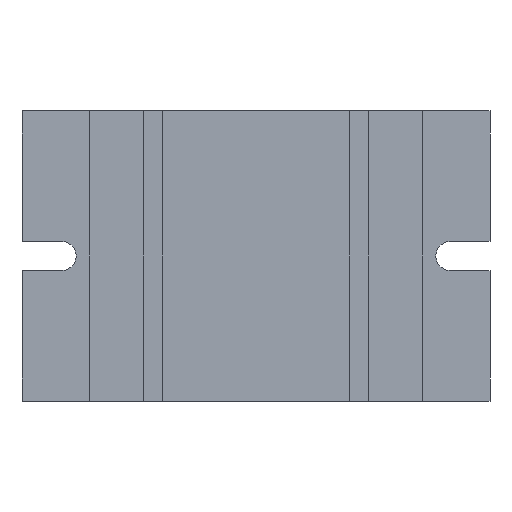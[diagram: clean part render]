
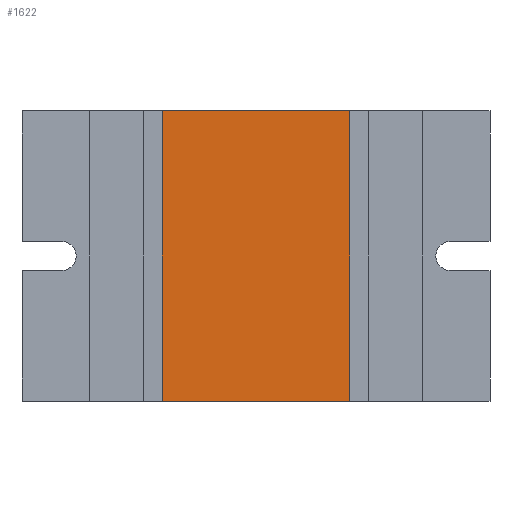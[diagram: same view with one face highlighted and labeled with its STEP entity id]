
A CAD part, front view. The second image highlights one B-rep face of the part: STEP entity #1622.
In plain terms, the highlighted planar face has unit normal (0, -1, 0).
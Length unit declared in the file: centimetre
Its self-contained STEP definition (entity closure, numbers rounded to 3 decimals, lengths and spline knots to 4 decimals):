
#445=VERTEX_POINT('',#7268);
#446=VERTEX_POINT('',#7270);
#447=VERTEX_POINT('',#7274);
#448=VERTEX_POINT('',#7276);
#682=EDGE_CURVE('',#446,#445,#2418,.T.);
#684=EDGE_CURVE('',#445,#447,#2420,.T.);
#685=EDGE_CURVE('',#448,#447,#2421,.T.);
#686=EDGE_CURVE('',#446,#448,#2422,.T.);
#1026=ORIENTED_EDGE('',*,*,#684,.T.);
#1027=ORIENTED_EDGE('',*,*,#685,.F.);
#1028=ORIENTED_EDGE('',*,*,#686,.F.);
#1029=ORIENTED_EDGE('',*,*,#682,.T.);
#1421=EDGE_LOOP('',(#1026,#1027,#1028,#1029));
#1523=FACE_BOUND('',#1421,.T.);
#1622=ADVANCED_FACE('',(#1523),#5490,.T.);
#2418=LINE('',#7269,#5358);
#2420=LINE('',#7273,#5360);
#2421=LINE('',#7275,#5361);
#2422=LINE('',#7277,#5362);
#4958=AXIS2_PLACEMENT_3D('',#7272,#6100,$);
#5358=VECTOR('',#6098,1.);
#5360=VECTOR('',#6101,1.);
#5361=VECTOR('',#6102,1.);
#5362=VECTOR('',#6103,1.);
#5490=PLANE('',#4958);
#6098=DIRECTION('',(0.,0.,1.));
#6100=DIRECTION('',(0.,-1.,0.));
#6101=DIRECTION('',(-1.,0.,0.));
#6102=DIRECTION('',(0.,0.,1.));
#6103=DIRECTION('',(-1.,0.,0.));
#7268=CARTESIAN_POINT('',(-1.1898,-3.9499,4.96));
#7269=CARTESIAN_POINT('',(-1.1898,-3.9499,0.));
#7270=CARTESIAN_POINT('',(-1.1898,-3.9499,0.));
#7272=CARTESIAN_POINT('',(-3.9051,-3.9499,0.));
#7273=CARTESIAN_POINT('',(-1.1898,-3.9499,4.96));
#7274=CARTESIAN_POINT('',(-4.8102,-3.9499,4.96));
#7275=CARTESIAN_POINT('',(-4.8102,-3.9499,0.));
#7276=CARTESIAN_POINT('',(-4.8102,-3.9499,0.));
#7277=CARTESIAN_POINT('',(-1.1898,-3.9499,0.));
